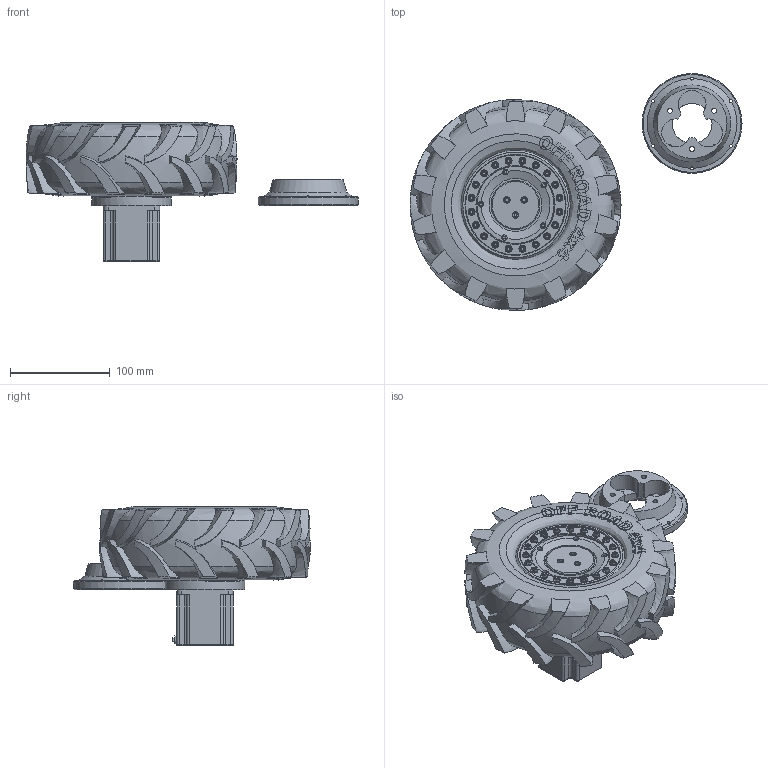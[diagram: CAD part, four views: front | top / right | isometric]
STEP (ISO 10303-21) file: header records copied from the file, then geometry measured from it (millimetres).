
FILE_DESCRIPTION(/* description */ (''),/* implementation_level */ '2;1');
FILE_NAME(/* name */ 'RV_Reducer_Final_Assembly.step',/* time_stamp */ '2022-11-29T20:28:40-05:00',/* author */ (''),/* organization */ (''),/* preprocessor_version */ 'ST-DEVELOPER v19.2',/* originating_system */ 'Autodesk Translation Framework v11.17.0.187',/* authorisation */ '');
FILE_SCHEMA (('AUTOMOTIVE_DESIGN { 1 0 10303 214 3 1 1 }'));
Products named in the file (23): RV_Reducer_Final; 45x58 Bearing; 20x27 Bearing; 15x24 Bearing; Base_Closed; Base_Open; Cam_Cap v1; Cam_Cap v1 (1); Cycloidal_Disk_1 v1; Cycoidal_Disk_Standoff; Eccentric_Cam_1 v1; Eccentric_Cam_2 v1; Eccentric_Cam_3 v1; Face_Plate; Hub_Cap; NEMA23(SY57STH56-4004A); Retainer_Ring; Tire; tire_1; Wheel_Rim; Cycloidal_Disk_2 v1; Cam_Cap v1 (2); Sun_Gear
Assembly tree (32 placements, depth 3):
  RV_Reducer_Final
    15x24 Bearing  x9
    20x27 Bearing  x3
    45x58 Bearing
    Base_Closed
    Base_Open
    Cam_Cap v1
    Cam_Cap v1 (1)
    Cycloidal_Disk_1 v1
    Cycoidal_Disk_Standoff
    Eccentric_Cam_1 v1
    Eccentric_Cam_2 v1
    Eccentric_Cam_3 v1
    Face_Plate
    Hub_Cap
    NEMA23(SY57STH56-4004A)
    Retainer_Ring
    Tire
      tire_1
    Wheel_Rim
    Cycloidal_Disk_2 v1
    Cam_Cap v1 (2)
    Sun_Gear
Bounding box: 332.48 x 237.37 x 139.6 mm (x, y, z)
Volume: 2421600 mm3; surface area: 330053.5 mm2
Topology: 31 solids, 31 shells, 2856 faces, 7281 edges, 4637 vertices
Faces by surface type: plane 807, bspline 777, cone 642, cylinder 616, torus 14
Full cylindrical faces by diameter (mm): 1.6 x4, 2 x6, 2.1 x2, 2.5 x4, 3 x17, 3.2 x20, 4.2 x8, 5 x22, 5.2 x4, 5.5 x8, 5.9 x2, 6.2 x12, 6.35 x2, 6.604 x1, 7 x21, 8 x1, 9 x3, 9.5 x3, 10 x2, 11.5 x1, 15 x18, 16.6 x18, 18 x6, 19.5 x6, 20 x9, 21 x6, 22.4 x18, 22.5 x3, 24 x18, 24.2 x3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
Entity records: 143656 total; most frequent: CARTESIAN_POINT 80752, ORIENTED_EDGE 14146, DIRECTION 11406, EDGE_CURVE 7073, AXIS2_PLACEMENT_3D 4541, VERTEX_POINT 4517, EDGE_LOOP 3020, FACE_OUTER_BOUND 2736
